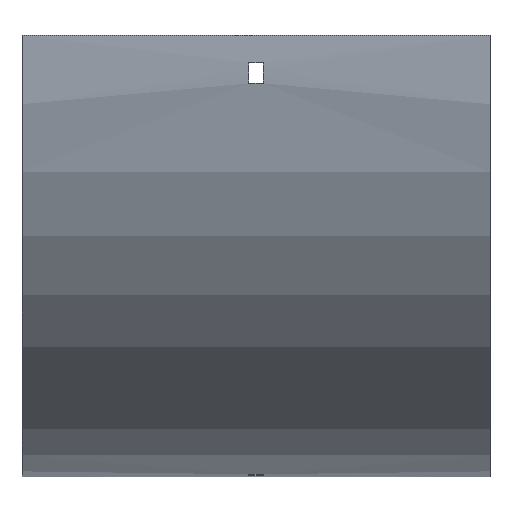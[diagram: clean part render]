
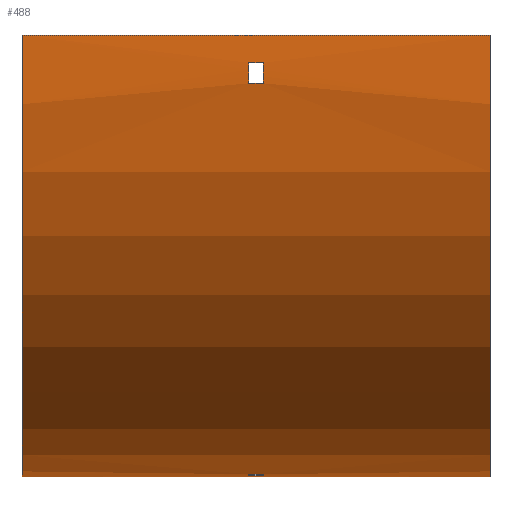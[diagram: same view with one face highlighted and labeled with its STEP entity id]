
A CAD part, front view. The second image highlights one B-rep face of the part: STEP entity #488.
In plain terms, the highlighted cylindrical face has radius 192.5 mm (diameter 385 mm), a partial arc.
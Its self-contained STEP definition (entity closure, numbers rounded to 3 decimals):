
#2 = AXIS2_PLACEMENT_3D ( 'NONE', #1482, #1372, #1491 ) ;
#15 = CARTESIAN_POINT ( 'NONE',  ( 102., 88., -192.126 ) ) ;
#36 = EDGE_LOOP ( 'NONE', ( #735, #1419, #222, #446 ) ) ;
#40 = EDGE_CURVE ( 'NONE', #1521, #389, #853, .T. ) ;
#76 = VERTEX_POINT ( 'NONE', #1648 ) ;
#80 = ORIENTED_EDGE ( 'NONE', *, *, #1150, .T. ) ;
#87 = EDGE_CURVE ( 'NONE', #1076, #1347, #525, .T. ) ;
#93 = CARTESIAN_POINT ( 'NONE',  ( 102., 100., 0. ) ) ;
#159 = CARTESIAN_POINT ( 'NONE',  ( 102., 100., 0. ) ) ;
#168 = FACE_OUTER_BOUND ( 'NONE', #724, .T. ) ;
#173 = EDGE_CURVE ( 'NONE', #76, #1450, #501, .T. ) ;
#187 = FACE_BOUND ( 'NONE', #1651, .T. ) ;
#199 = DIRECTION ( 'NONE',  ( 1., 0., 0. ) ) ;
#203 = VERTEX_POINT ( 'NONE', #1034 ) ;
#222 = ORIENTED_EDGE ( 'NONE', *, *, #394, .F. ) ;
#240 = LINE ( 'NONE', #633, #1445 ) ;
#296 = LINE ( 'NONE', #1225, #1558 ) ;
#318 = ORIENTED_EDGE ( 'NONE', *, *, #1531, .T. ) ;
#338 = AXIS2_PLACEMENT_3D ( 'NONE', #159, #1609, #715 ) ;
#389 = VERTEX_POINT ( 'NONE', #1105 ) ;
#393 = CARTESIAN_POINT ( 'NONE',  ( -3.25, -92.126, -12. ) ) ;
#394 = EDGE_CURVE ( 'NONE', #815, #203, #989, .T. ) ;
#408 = LINE ( 'NONE', #15, #631 ) ;
#410 = CARTESIAN_POINT ( 'NONE',  ( 102., -91.351, -21. ) ) ;
#446 = ORIENTED_EDGE ( 'NONE', *, *, #1453, .F. ) ;
#447 = CARTESIAN_POINT ( 'NONE',  ( -3.25, -91.351, -21. ) ) ;
#454 = ORIENTED_EDGE ( 'NONE', *, *, #173, .T. ) ;
#480 = DIRECTION ( 'NONE',  ( 1., 0., 0. ) ) ;
#488 = ADVANCED_FACE ( 'NONE', ( #168, #187, #1243 ), #1344, .T. ) ;
#498 = CIRCLE ( 'NONE', #983, 192.5 ) ;
#501 = CIRCLE ( 'NONE', #1125, 192.5 ) ;
#525 = CIRCLE ( 'NONE', #895, 192.5 ) ;
#552 = VECTOR ( 'NONE', #199, 1000. ) ;
#583 = CIRCLE ( 'NONE', #1586, 192.5 ) ;
#607 = DIRECTION ( 'NONE',  ( 0., 0., -1. ) ) ;
#609 = CIRCLE ( 'NONE', #918, 192.5 ) ;
#627 = EDGE_CURVE ( 'NONE', #1154, #1442, #583, .T. ) ;
#631 = VECTOR ( 'NONE', #1183, 1000. ) ;
#633 = CARTESIAN_POINT ( 'NONE',  ( 102., 100., -192.5 ) ) ;
#644 = ORIENTED_EDGE ( 'NONE', *, *, #1041, .T. ) ;
#647 = ORIENTED_EDGE ( 'NONE', *, *, #1119, .T. ) ;
#666 = CARTESIAN_POINT ( 'NONE',  ( -102., 100., -192.5 ) ) ;
#688 = VERTEX_POINT ( 'NONE', #1434 ) ;
#715 = DIRECTION ( 'NONE',  ( 0., 0., 1. ) ) ;
#724 = EDGE_LOOP ( 'NONE', ( #454, #1049, #1078, #318 ) ) ;
#735 = ORIENTED_EDGE ( 'NONE', *, *, #87, .F. ) ;
#763 = VECTOR ( 'NONE', #1551, 1000. ) ;
#795 = DIRECTION ( 'NONE',  ( 0., 0., -1. ) ) ;
#815 = VERTEX_POINT ( 'NONE', #1456 ) ;
#822 = EDGE_CURVE ( 'NONE', #203, #1076, #296, .T. ) ;
#853 = LINE ( 'NONE', #1375, #552 ) ;
#861 = DIRECTION ( 'NONE',  ( -1., 0., 0. ) ) ;
#876 = DIRECTION ( 'NONE',  ( 1., 0., 0. ) ) ;
#895 = AXIS2_PLACEMENT_3D ( 'NONE', #1389, #480, #997 ) ;
#899 = DIRECTION ( 'NONE',  ( 1., 0., 0. ) ) ;
#918 = AXIS2_PLACEMENT_3D ( 'NONE', #1519, #861, #1524 ) ;
#932 = CARTESIAN_POINT ( 'NONE',  ( 102., -92.5, 0. ) ) ;
#965 = DIRECTION ( 'NONE',  ( -1., 0., 0. ) ) ;
#983 = AXIS2_PLACEMENT_3D ( 'NONE', #1168, #1563, #795 ) ;
#989 = CIRCLE ( 'NONE', #2, 192.5 ) ;
#997 = DIRECTION ( 'NONE',  ( 0., 1., 0. ) ) ;
#1009 = CARTESIAN_POINT ( 'NONE',  ( -102., 100., 0. ) ) ;
#1011 = DIRECTION ( 'NONE',  ( -1., 0., 0. ) ) ;
#1034 = CARTESIAN_POINT ( 'NONE',  ( 3.25, 79., -191.351 ) ) ;
#1037 = LINE ( 'NONE', #1684, #763 ) ;
#1041 = EDGE_CURVE ( 'NONE', #1597, #1521, #609, .T. ) ;
#1049 = ORIENTED_EDGE ( 'NONE', *, *, #1403, .F. ) ;
#1076 = VERTEX_POINT ( 'NONE', #1204 ) ;
#1078 = ORIENTED_EDGE ( 'NONE', *, *, #627, .F. ) ;
#1105 = CARTESIAN_POINT ( 'NONE',  ( 3.25, -92.126, -12. ) ) ;
#1119 = EDGE_CURVE ( 'NONE', #688, #1597, #1192, .T. ) ;
#1125 = AXIS2_PLACEMENT_3D ( 'NONE', #1009, #876, #1402 ) ;
#1150 = EDGE_CURVE ( 'NONE', #389, #688, #498, .T. ) ;
#1154 = VERTEX_POINT ( 'NONE', #932 ) ;
#1168 = CARTESIAN_POINT ( 'NONE',  ( 3.25, 100., 0. ) ) ;
#1183 = DIRECTION ( 'NONE',  ( 1., 0., 0. ) ) ;
#1192 = LINE ( 'NONE', #410, #1516 ) ;
#1204 = CARTESIAN_POINT ( 'NONE',  ( -3.25, 79., -191.351 ) ) ;
#1225 = CARTESIAN_POINT ( 'NONE',  ( 102., 79., -191.351 ) ) ;
#1243 = FACE_BOUND ( 'NONE', #36, .T. ) ;
#1297 = DIRECTION ( 'NONE',  ( -1., 0., 0. ) ) ;
#1344 = CYLINDRICAL_SURFACE ( 'NONE', #338, 192.5 ) ;
#1347 = VERTEX_POINT ( 'NONE', #1405 ) ;
#1372 = DIRECTION ( 'NONE',  ( -1., 0., 0. ) ) ;
#1375 = CARTESIAN_POINT ( 'NONE',  ( 102., -92.126, -12. ) ) ;
#1389 = CARTESIAN_POINT ( 'NONE',  ( -3.25, 100., 0. ) ) ;
#1402 = DIRECTION ( 'NONE',  ( 0., 0., -1. ) ) ;
#1403 = EDGE_CURVE ( 'NONE', #1442, #1450, #240, .T. ) ;
#1405 = CARTESIAN_POINT ( 'NONE',  ( -3.25, 88., -192.126 ) ) ;
#1419 = ORIENTED_EDGE ( 'NONE', *, *, #822, .F. ) ;
#1434 = CARTESIAN_POINT ( 'NONE',  ( 3.25, -91.351, -21. ) ) ;
#1442 = VERTEX_POINT ( 'NONE', #1562 ) ;
#1445 = VECTOR ( 'NONE', #1011, 1000. ) ;
#1450 = VERTEX_POINT ( 'NONE', #666 ) ;
#1453 = EDGE_CURVE ( 'NONE', #1347, #815, #408, .T. ) ;
#1456 = CARTESIAN_POINT ( 'NONE',  ( 3.25, 88., -192.126 ) ) ;
#1482 = CARTESIAN_POINT ( 'NONE',  ( 3.25, 100., 0. ) ) ;
#1491 = DIRECTION ( 'NONE',  ( 0., 0., 1. ) ) ;
#1510 = ORIENTED_EDGE ( 'NONE', *, *, #40, .T. ) ;
#1516 = VECTOR ( 'NONE', #1297, 1000. ) ;
#1519 = CARTESIAN_POINT ( 'NONE',  ( -3.25, 100., 0. ) ) ;
#1521 = VERTEX_POINT ( 'NONE', #393 ) ;
#1524 = DIRECTION ( 'NONE',  ( 0., 0., 1. ) ) ;
#1531 = EDGE_CURVE ( 'NONE', #1154, #76, #1037, .T. ) ;
#1551 = DIRECTION ( 'NONE',  ( -1., 0., 0. ) ) ;
#1558 = VECTOR ( 'NONE', #965, 1000. ) ;
#1562 = CARTESIAN_POINT ( 'NONE',  ( 102., 100., -192.5 ) ) ;
#1563 = DIRECTION ( 'NONE',  ( 1., 0., 0. ) ) ;
#1586 = AXIS2_PLACEMENT_3D ( 'NONE', #93, #899, #607 ) ;
#1597 = VERTEX_POINT ( 'NONE', #447 ) ;
#1609 = DIRECTION ( 'NONE',  ( -1., 0., 0. ) ) ;
#1648 = CARTESIAN_POINT ( 'NONE',  ( -102., -92.5, 0. ) ) ;
#1651 = EDGE_LOOP ( 'NONE', ( #647, #644, #1510, #80 ) ) ;
#1684 = CARTESIAN_POINT ( 'NONE',  ( 102., -92.5, 0. ) ) ;
